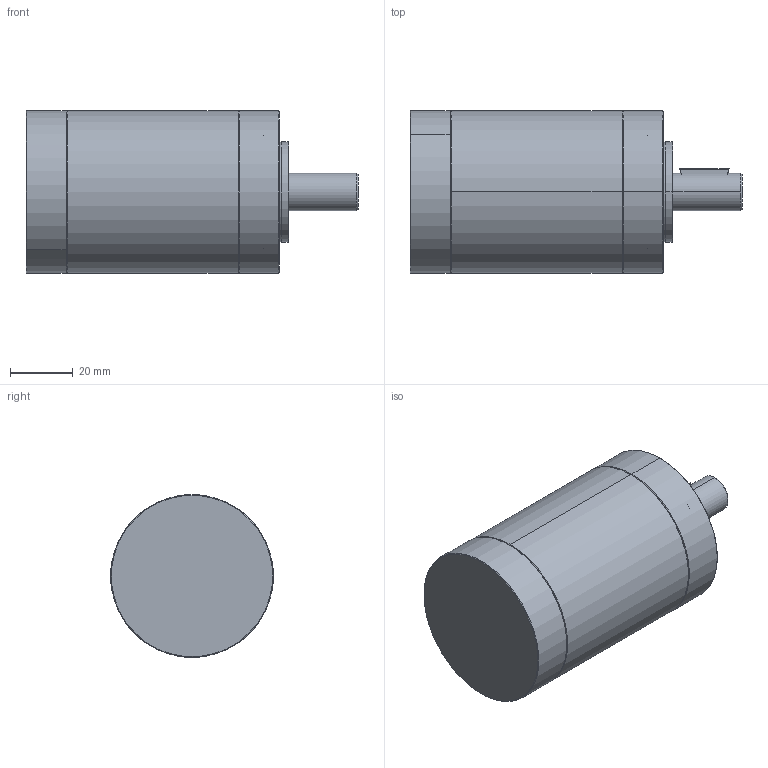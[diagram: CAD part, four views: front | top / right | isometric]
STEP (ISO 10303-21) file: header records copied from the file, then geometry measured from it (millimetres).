
FILE_DESCRIPTION (( 'STEP AP203' ), '1' );
FILE_NAME ('PI52-3.STEP', '2013-11-27T07:34:18', ( '' ), ( '' ), 'SwSTEP 2.0', 'SolidWorks 2012', '' );
FILE_SCHEMA (( 'CONFIG_CONTROL_DESIGN' ));
Length unit declared in the file: millimetre
Products named in the file (2): PI52-3; Group1^Baugruppe36_01
Assembly tree (1 placements, depth 2):
  PI52-3
    Group1^Baugruppe36_01
Bounding box: 106.1 x 52 x 52 mm (x, y, z)
Volume: 182085.5 mm3; surface area: 27961.5 mm2
Topology: 9 solids, 9 shells, 889 faces, 2240 edges, 1379 vertices
Faces by surface type: cone 484, cylinder 295, plane 90, torus 20
Full cylindrical faces by diameter (mm): 4.3 x4
Entity records: 27052 total; most frequent: DIRECTION 5328, CARTESIAN_POINT 4534, ORIENTED_EDGE 4444, EDGE_CURVE 2222, AXIS2_PLACEMENT_3D 2221, VERTEX_POINT 1379, CIRCLE 1328, EDGE_LOOP 917
